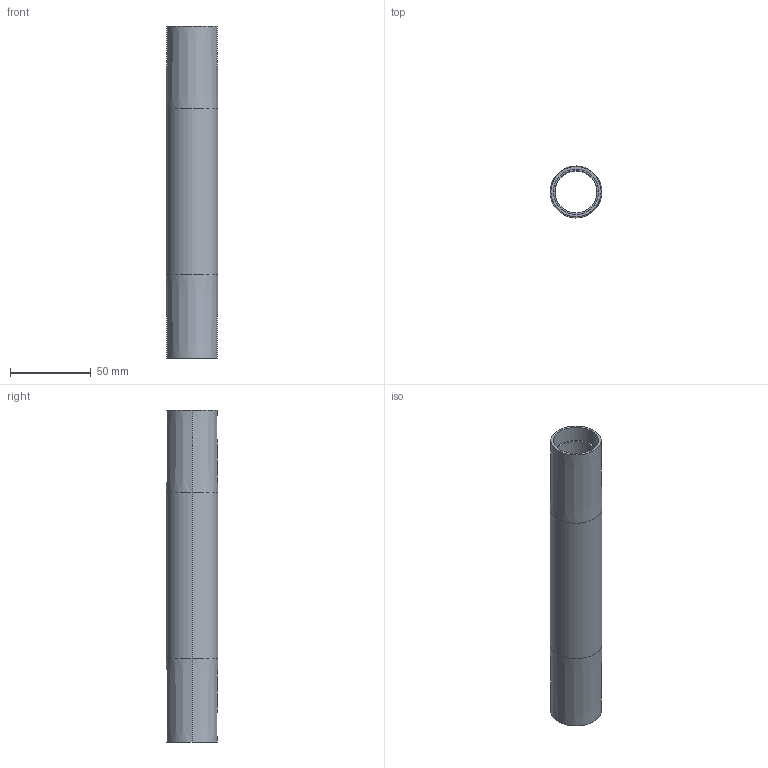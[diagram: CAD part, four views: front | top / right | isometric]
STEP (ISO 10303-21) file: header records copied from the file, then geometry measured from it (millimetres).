
FILE_DESCRIPTION (( 'STEP AP214' ), '1' );
FILE_NAME ('084.801.019.185.STEP', '2021-02-05T15:56:21', ( '' ), ( '' ), 'SwSTEP 2.0', 'SolidWorks 2018', '' );
FILE_SCHEMA (( 'AUTOMOTIVE_DESIGN' ));
Length unit declared in the file: millimetre
Products named in the file (1): 084.801.019.185
Bounding box: 32 x 32 x 205 mm (x, y, z)
Volume: 51784.6 mm3; surface area: 37766.4 mm2
Topology: 1 solids, 1 shells, 16 faces, 32 edges, 20 vertices
Faces by surface type: cylinder 8, cone 4, plane 4
Entity records: 462 total; most frequent: DIRECTION 86, CARTESIAN_POINT 69, ORIENTED_EDGE 64, AXIS2_PLACEMENT_3D 37, EDGE_CURVE 32, EDGE_LOOP 20, VERTEX_POINT 20, CIRCLE 20
